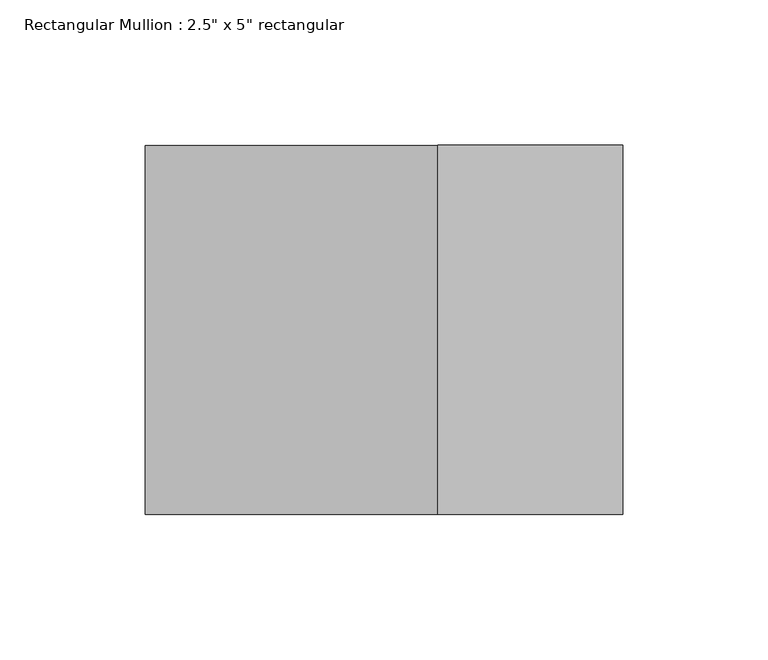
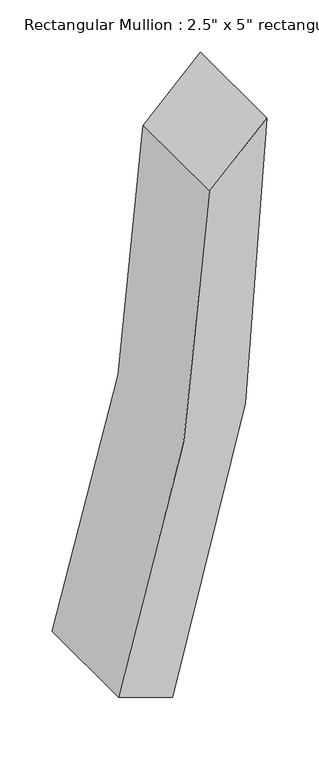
"""IFC4 building model written with IfcOpenShell, lengths in millimetres: member geometry."""

import ifcopenshell
import ifcopenshell.guid

model = None  # the IFC model being written
_history = None  # IfcOwnerHistory: only IFC2X3 demands one
_inside = {}  # id of a spatial element -> (the spatial element, [elements in it])
_under = {}  # id of a project, library or spatial element -> (it, [spatial elements below it])
_declared = {}  # id of a project -> (the project, [libraries it declares])
_typed = {}  # id of a type object -> (the type object, [elements of that type])
_made_of = {}  # id of a material, layer set ... -> (it, [elements and type objects made of it])


def new_model(schema):
    """Start an empty IFC model of exactly this schema.

    Asked for "IFC4X3", IfcOpenShell would pick the latest addendum, in which some entities
    have other attributes; the version numbers below select the first issue.
    IFC2X3 requires an IfcOwnerHistory on every rooted entity: one is made here for all.
    """
    global model, _history
    if schema == "IFC4X3":
        model = ifcopenshell.file(schema_version=(4, 3, 0, 0))
    else:
        model = ifcopenshell.file(schema=schema)
    _inside.clear()
    _under.clear()
    _declared.clear()
    _typed.clear()
    _made_of.clear()
    _history = None
    if model.schema == "IFC2X3":
        org = make("IfcOrganization", Name="unknown")
        user = make(
            "IfcPersonAndOrganization",
            ThePerson=make("IfcPerson", FamilyName="unknown"),
            TheOrganization=org,
        )
        app = make(
            "IfcApplication",
            ApplicationDeveloper=org,
            Version="unknown",
            ApplicationFullName="unknown",
            ApplicationIdentifier="unknown",
        )
        _history = make(
            "IfcOwnerHistory",
            OwningUser=user,
            OwningApplication=app,
            ChangeAction="ADDED",
            CreationDate=0,
        )
    return model


def make(cls, **values):
    """One entity of the class cls with the attributes given. An attribute that is None is left unset."""
    return model.create_entity(
        cls, **{name: value for name, value in values.items() if value is not None}
    )


def rooted(cls, **values):
    """An entity with a GlobalId (a new one), such as an element, a storey or a relation."""
    return make(cls, GlobalId=ifcopenshell.guid.new(), OwnerHistory=_history, **values)


def si_unit(unit_type, name, prefix=None):
    """IfcSIUnit, for example si_unit("LENGTHUNIT", "METRE", prefix="MILLI")."""
    return make("IfcSIUnit", UnitType=unit_type, Prefix=prefix, Name=name)


def assignment(units):
    """IfcUnitAssignment: the units of a project."""
    return None if units is None else make("IfcUnitAssignment", Units=units)


def point(xyz):
    """IfcCartesianPoint."""
    return None if xyz is None else make("IfcCartesianPoint", Coordinates=xyz)


def direction(xyz):
    """IfcDirection."""
    return None if xyz is None else make("IfcDirection", DirectionRatios=xyz)


def frame(location, z_axis=None, x_axis=None):
    """IfcAxis2Placement3D, a coordinate frame: its origin and axes. An axis left out is left unset."""
    return make(
        "IfcAxis2Placement3D",
        Location=point(location),
        Axis=direction(z_axis),
        RefDirection=direction(x_axis),
    )


def frame_2d(location, x_axis=None):
    """IfcAxis2Placement2D, a coordinate frame in the plane: its origin and x axis."""
    return make(
        "IfcAxis2Placement2D", Location=point(location), RefDirection=direction(x_axis)
    )


def origin():
    """The frame at (0, 0, 0) with its axes left unset."""
    return frame((0.0, 0.0, 0.0))


def place(relative_to, where):
    """IfcLocalPlacement: puts the frame where relative to a parent placement (None: the world)."""
    return make(
        "IfcLocalPlacement", PlacementRelTo=relative_to, RelativePlacement=where
    )


def context(
    kind, dimensions, precision=None, world=None, true_north=None, identifier=None
):
    """IfcGeometricRepresentationContext, for example the 3D "Model" context."""
    return make(
        "IfcGeometricRepresentationContext",
        ContextIdentifier=identifier,
        ContextType=kind,
        CoordinateSpaceDimension=dimensions,
        Precision=precision,
        WorldCoordinateSystem=world,
        TrueNorth=true_north,
    )


def project(units=None, contexts=None):
    """IfcProject with its units and contexts."""
    return rooted(
        "IfcProject",
        Name="project",
        RepresentationContexts=contexts,
        UnitsInContext=assignment(units),
    )


def spatial(cls, under=None, at=None, **own):
    """A site, building, storey or space (cls), placed at a placement, below another one or the project."""
    s = rooted(cls, ObjectPlacement=at, **own)
    if under is not None:
        _under.setdefault(under.id(), (under, []))[1].append(s)
    return s


def polyline(points):
    """IfcPolyline through the points."""
    return make("IfcPolyline", Points=[point(p) for p in points])


def circle_curve(where, radius):
    """IfcCircle in the frame where."""
    return make("IfcCircle", Position=where, Radius=radius)


def trimmed(basis, trim1, trim2, sense, master):
    """IfcTrimmedCurve: the piece of a basis curve between two trims."""
    return make(
        "IfcTrimmedCurve",
        BasisCurve=basis,
        Trim1=trim1,
        Trim2=trim2,
        SenseAgreement=sense,
        MasterRepresentation=master,
    )


def segment(curve, same_sense, transition):
    """IfcCompositeCurveSegment."""
    return make(
        "IfcCompositeCurveSegment",
        Transition=transition,
        SameSense=same_sense,
        ParentCurve=curve,
    )


def composite_curve(segments, self_intersect=None):
    """IfcCompositeCurve: segments joined end to end."""
    return make("IfcCompositeCurve", Segments=segments, SelfIntersect=self_intersect)


def outline(outer, holes=None, kind="AREA"):
    """IfcArbitraryClosedProfileDef: a profile drawn as a closed curve; with holes, ...WithVoids."""
    if holes is None:
        return make("IfcArbitraryClosedProfileDef", ProfileType=kind, OuterCurve=outer)
    return make(
        "IfcArbitraryProfileDefWithVoids",
        ProfileType=kind,
        OuterCurve=outer,
        InnerCurves=holes,
    )


def extrude(swept, where, along, depth):
    """IfcExtrudedAreaSolid: the profile swept, set in the frame where, extruded along a direction by depth."""
    return make(
        "IfcExtrudedAreaSolid",
        SweptArea=swept,
        Position=where,
        ExtrudedDirection=direction(along),
        Depth=depth,
    )


def shape(context_of_items, identifier, shape_type, items):
    """IfcShapeRepresentation: the items that make up one representation, for example the "Body"."""
    return make(
        "IfcShapeRepresentation",
        ContextOfItems=context_of_items,
        RepresentationIdentifier=identifier,
        RepresentationType=shape_type,
        Items=items,
    )


def source(mapping_origin, context_of_items, identifier, shape_type, items):
    """IfcRepresentationMap: a shape defined once, which mapped items show again and again."""
    return make(
        "IfcRepresentationMap",
        MappingOrigin=mapping_origin,
        MappedRepresentation=shape(context_of_items, identifier, shape_type, items),
    )


def transform(
    local_origin,
    x_axis=None,
    y_axis=None,
    z_axis=None,
    scale=None,
    scale2=None,
    scale3=None,
    uniform=True,
):
    """IfcCartesianTransformationOperator3D, or its non-uniform kind. x_axis, y_axis, z_axis: its Axis1, 2, 3."""
    if uniform:
        return make(
            "IfcCartesianTransformationOperator3D",
            Axis1=direction(x_axis),
            Axis2=direction(y_axis),
            LocalOrigin=point(local_origin),
            Scale=scale,
            Axis3=direction(z_axis),
        )
    return make(
        "IfcCartesianTransformationOperator3DnonUniform",
        Axis1=direction(x_axis),
        Axis2=direction(y_axis),
        LocalOrigin=point(local_origin),
        Scale=scale,
        Axis3=direction(z_axis),
        Scale2=scale2,
        Scale3=scale3,
    )


def mapped(mapping_source, mapping_target):
    """IfcMappedItem: shows the shape of a source again, moved by a transform."""
    return make(
        "IfcMappedItem", MappingSource=mapping_source, MappingTarget=mapping_target
    )


def made_of(thing, what):
    """Note that an element or type object is made of a material, layer set ...; save() writes the relation."""
    if what is not None:
        _made_of.setdefault(what.id(), (what, []))[1].append(thing)
    return thing


def element(
    cls,
    number,
    at=None,
    inside=None,
    cuts=None,
    type_object=None,
    material=None,
    context=None,
    identifier="Body",
    shape_type=None,
    held_by="IfcProductDefinitionShape",
    body=None,
    shapes=None,
    **own,
):
    """One element of the class cls, such as IfcWall. Its Tag is "e" and its number.

    at: its placement. inside: the storey or other place that contains it. cuts: it is an
    opening in that element (IfcRelVoidsElement). A single representation is given by context,
    identifier, shape_type and body (its items); several are given by shapes. held_by: the class
    of the entity that holds the representations. save() writes the other relations.
    """
    e = rooted(cls, Tag="e%d" % number, ObjectPlacement=at, **own)
    if body is not None:
        shapes = [shape(context, identifier, shape_type, body)]
    if shapes is not None:
        e.Representation = make(held_by, Representations=shapes)
    if inside is not None:
        _inside.setdefault(inside.id(), (inside, []))[1].append(e)
    if cuts is not None:
        rooted(
            "IfcRelVoidsElement", RelatingBuildingElement=cuts, RelatedOpeningElement=e
        )
    if type_object is not None:
        _typed.setdefault(type_object.id(), (type_object, []))[1].append(e)
    return made_of(e, material)


def aggregate(whole, parts):
    """IfcRelAggregates: a whole, such as a stair, and the parts it consists of."""
    return rooted("IfcRelAggregates", RelatingObject=whole, RelatedObjects=parts)


def save(model, path):
    """Write the relations noted so far, then the file.

    IfcRelAggregates (storeys below a building ...), IfcRelContainedInSpatialStructure (elements
    in a storey), IfcRelDefinesByType, IfcRelAssociatesMaterial and IfcRelDeclares: one each for
    every whole, place, type object, material and project.
    """
    for whole, parts in _under.values():
        aggregate(whole, parts)
    for where, things in _inside.values():
        rooted(
            "IfcRelContainedInSpatialStructure",
            RelatedElements=things,
            RelatingStructure=where,
        )
    for kind, things in _typed.values():
        rooted("IfcRelDefinesByType", RelatedObjects=things, RelatingType=kind)
    for what, things in _made_of.values():
        rooted("IfcRelAssociatesMaterial", RelatedObjects=things, RelatingMaterial=what)
    for by, libraries in _declared.values():
        rooted("IfcRelDeclares", RelatingContext=by, RelatedDefinitions=libraries)
    model.write(path)


def member_da55b54e(model_context):
    return source(origin(), model_context, "Body", "SweptSolid", [
        extrude(outline(composite_curve([segment(trimmed(circle_curve(frame_2d((0.0, -1828.8)), 1828.8), [point((-609.6, -104.5908248))], [point((31.4790561, -0.2709439))], False, "CARTESIAN"), True, "CONTINUOUS"), segment(polyline([(31.4790561, -0.2709439), (-32.0407997, -63.7907997)]), True, "CONTINUOUS"), segment(trimmed(circle_curve(frame_2d((0.0, -1828.8)), 1765.3), [point((-32.0407997, -63.7907997))], [point((-588.4333333, -164.4591989))], True, "CARTESIAN"), True, "CONTINUOUS"), segment(polyline([(-588.4333333, -164.4591989), (-609.6, -104.5908248)]), True, "CONTINUOUS")], self_intersect=False)), frame((0.0, -63.5, 0.0), z_axis=(0.0, 1.0, 0.0), x_axis=(0.0, 0.0, 1.0)), (0.0, 0.0, 1.0), 127.0),
    ])


if __name__ == "__main__":
    model = new_model("IFC4")
    model_context = context("Model", 3, world=origin())
    ifc_project = project(units=[si_unit("LENGTHUNIT", "METRE", prefix="MILLI")], contexts=[model_context])
    site = spatial("IfcSite", under=ifc_project)
    building = spatial("IfcBuilding", under=site)
    placement = place(None, origin())
    member_shape = member_da55b54e(model_context)
    element("IfcMember", 1, ObjectType="Rectangular Mullion : 2.5\" x 5\" rectangular", at=placement, inside=building, context=model_context, shape_type="MappedRepresentation", body=[
        mapped(member_shape, transform((0.0, 0.0, 0.0), x_axis=(1.0, 0.0, 0.0), y_axis=(0.0, 1.0, 0.0), z_axis=(0.0, 0.0, 1.0))),
    ])
    save(model, "model.ifc")
